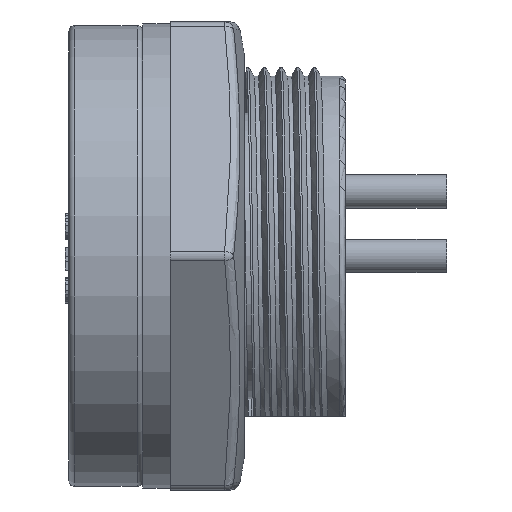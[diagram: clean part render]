
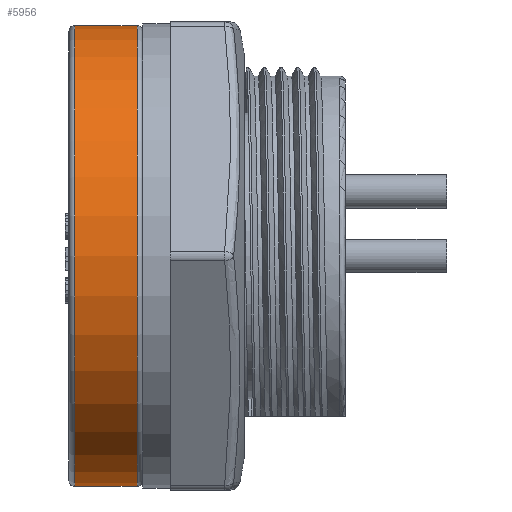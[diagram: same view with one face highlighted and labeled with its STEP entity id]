
A CAD part, front view. The second image highlights one B-rep face of the part: STEP entity #5956.
In plain terms, the highlighted cylindrical face has radius 12.5 mm (diameter 25 mm), a partial arc.
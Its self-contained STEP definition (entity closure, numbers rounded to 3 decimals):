
#13 = VECTOR ( 'NONE', #10376, 1000. ) ;
#93 = AXIS2_PLACEMENT_3D ( 'NONE', #3583, #3582, #3581 ) ;
#252 = CYLINDRICAL_SURFACE ( 'NONE', #93, 12.5 ) ;
#254 = FACE_OUTER_BOUND ( 'NONE', #18694, .T. ) ;
#1773 = CIRCLE ( 'NONE', #14303, 12.5 ) ;
#1794 = CIRCLE ( 'NONE', #14448, 12.5 ) ;
#3581 = DIRECTION ( 'NONE',  ( 0., 0., 1. ) ) ;
#3582 = DIRECTION ( 'NONE',  ( -1., 0., 0. ) ) ;
#3583 = CARTESIAN_POINT ( 'NONE',  ( 0., 0., 0. ) ) ;
#5780 = VECTOR ( 'NONE', #9590, 1000. ) ;
#5956 = ADVANCED_FACE ( 'NONE', ( #254 ), #252, .T. ) ;
#6093 = EDGE_CURVE ( 'NONE', #13321, #13661, #10374, .T. ) ;
#6220 = EDGE_CURVE ( 'NONE', #13228, #13321, #1773, .T. ) ;
#6332 = EDGE_CURVE ( 'NONE', #13661, #13134, #1794, .T. ) ;
#7774 = EDGE_CURVE ( 'NONE', #13228, #13134, #9588, .T. ) ;
#9588 = LINE ( 'NONE', #9589, #5780 ) ;
#9589 = CARTESIAN_POINT ( 'NONE',  ( 0., 0., -12.5 ) ) ;
#9590 = DIRECTION ( 'NONE',  ( -1., 0., 0. ) ) ;
#10374 = LINE ( 'NONE', #10375, #13 ) ;
#10375 = CARTESIAN_POINT ( 'NONE',  ( 0., 0., 12.5 ) ) ;
#10376 = DIRECTION ( 'NONE',  ( -1., 0., 0. ) ) ;
#10849 = CARTESIAN_POINT ( 'NONE',  ( 3.7, 0., 0. ) ) ;
#10856 = DIRECTION ( 'NONE',  ( -1., 0., 0. ) ) ;
#10857 = DIRECTION ( 'NONE',  ( 0., 0., 1. ) ) ;
#11209 = CARTESIAN_POINT ( 'NONE',  ( 0.3, 0., 0. ) ) ;
#11210 = DIRECTION ( 'NONE',  ( 1., 0., 0. ) ) ;
#11211 = DIRECTION ( 'NONE',  ( 0., 0., -1. ) ) ;
#13134 = VERTEX_POINT ( 'NONE', #15461 ) ;
#13142 = ORIENTED_EDGE ( 'NONE', *, *, #6093, .T. ) ;
#13228 = VERTEX_POINT ( 'NONE', #15482 ) ;
#13278 = ORIENTED_EDGE ( 'NONE', *, *, #7774, .F. ) ;
#13321 = VERTEX_POINT ( 'NONE', #15503 ) ;
#13661 = VERTEX_POINT ( 'NONE', #15608 ) ;
#13879 = ORIENTED_EDGE ( 'NONE', *, *, #6220, .T. ) ;
#14074 = ORIENTED_EDGE ( 'NONE', *, *, #6332, .T. ) ;
#14303 = AXIS2_PLACEMENT_3D ( 'NONE', #10849, #10856, #10857 ) ;
#14448 = AXIS2_PLACEMENT_3D ( 'NONE', #11209, #11210, #11211 ) ;
#15461 = CARTESIAN_POINT ( 'NONE',  ( 0.3, 0., -12.5 ) ) ;
#15482 = CARTESIAN_POINT ( 'NONE',  ( 3.7, 0., -12.5 ) ) ;
#15503 = CARTESIAN_POINT ( 'NONE',  ( 3.7, 0., 12.5 ) ) ;
#15608 = CARTESIAN_POINT ( 'NONE',  ( 0.3, 0., 12.5 ) ) ;
#18694 = EDGE_LOOP ( 'NONE', ( #13278, #13879, #13142, #14074 ) ) ;
